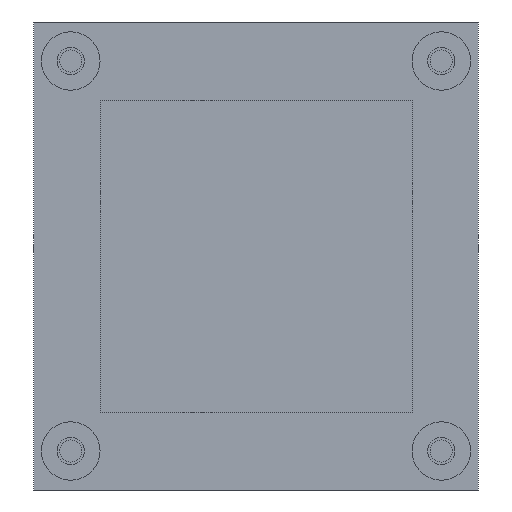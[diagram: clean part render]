
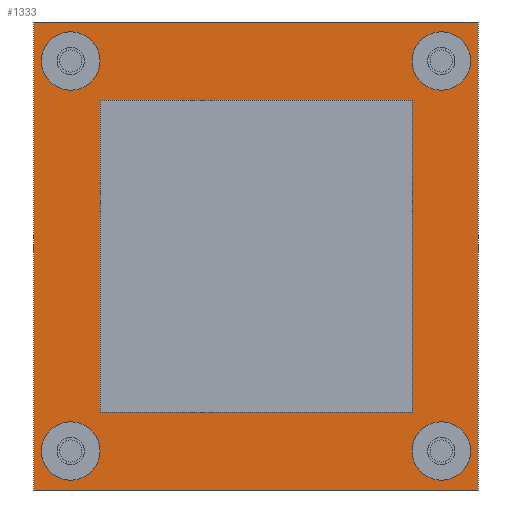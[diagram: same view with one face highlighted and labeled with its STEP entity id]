
A CAD part, front view. The second image highlights one B-rep face of the part: STEP entity #1333.
In plain terms, the highlighted planar face has unit normal (0, -1, 0).
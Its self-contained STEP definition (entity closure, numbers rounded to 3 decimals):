
#121 = ORIENTED_EDGE ( 'NONE', *, *, #13077, .F. ) ;
#644 = ORIENTED_EDGE ( 'NONE', *, *, #4678, .F. ) ;
#920 = CIRCLE ( 'NONE', #4542, 3.81 ) ;
#1273 = CARTESIAN_POINT ( 'NONE',  ( -24.13, 0., -25.4 ) ) ;
#1333 = ADVANCED_FACE ( 'NONE', ( #10533, #7147, #5256, #12633, #24418 ), #16560, .F. ) ;
#1600 = DIRECTION ( 'NONE',  ( 0., 0., -1. ) ) ;
#1673 = CARTESIAN_POINT ( 'NONE',  ( 24.13, 0., 25.4 ) ) ;
#1896 = VERTEX_POINT ( 'NONE', #9188 ) ;
#2100 = CARTESIAN_POINT ( 'NONE',  ( 24.13, 0., 29.21 ) ) ;
#2406 = CARTESIAN_POINT ( 'NONE',  ( -24.13, 0., 25.4 ) ) ;
#2497 = EDGE_LOOP ( 'NONE', ( #23664, #21226 ) ) ;
#2773 = AXIS2_PLACEMENT_3D ( 'NONE', #1273, #20481, #24479 ) ;
#2939 = CARTESIAN_POINT ( 'NONE',  ( 24.13, 0., 21.59 ) ) ;
#3017 = VERTEX_POINT ( 'NONE', #2100 ) ;
#3114 = DIRECTION ( 'NONE',  ( 0., 0., -1. ) ) ;
#3195 = CARTESIAN_POINT ( 'NONE',  ( -24.13, 0., 21.59 ) ) ;
#3993 = VERTEX_POINT ( 'NONE', #3195 ) ;
#4069 = DIRECTION ( 'NONE',  ( 0., -1., 0. ) ) ;
#4300 = ORIENTED_EDGE ( 'NONE', *, *, #13764, .F. ) ;
#4318 = EDGE_LOOP ( 'NONE', ( #121, #6880, #18310, #8313 ) ) ;
#4369 = EDGE_CURVE ( 'NONE', #7466, #18266, #16827, .T. ) ;
#4508 = CIRCLE ( 'NONE', #10911, 3.81 ) ;
#4542 = AXIS2_PLACEMENT_3D ( 'NONE', #22280, #5120, #11128 ) ;
#4600 = DIRECTION ( 'NONE',  ( 0., 0., -1. ) ) ;
#4678 = EDGE_CURVE ( 'NONE', #13398, #8537, #920, .T. ) ;
#4967 = DIRECTION ( 'NONE',  ( 0., -1., 0. ) ) ;
#5036 = ORIENTED_EDGE ( 'NONE', *, *, #7670, .F. ) ;
#5108 = CARTESIAN_POINT ( 'NONE',  ( -28.956, 0., 30.48 ) ) ;
#5120 = DIRECTION ( 'NONE',  ( 0., -1., 0. ) ) ;
#5256 = FACE_BOUND ( 'NONE', #13938, .T. ) ;
#5619 = VERTEX_POINT ( 'NONE', #15830 ) ;
#5641 = DIRECTION ( 'NONE',  ( 1., 0., 0. ) ) ;
#5903 = ORIENTED_EDGE ( 'NONE', *, *, #22840, .F. ) ;
#6749 = DIRECTION ( 'NONE',  ( 0., 0., 1. ) ) ;
#6763 = CARTESIAN_POINT ( 'NONE',  ( 24.13, 0., 25.4 ) ) ;
#6880 = ORIENTED_EDGE ( 'NONE', *, *, #17587, .F. ) ;
#7147 = FACE_BOUND ( 'NONE', #2497, .T. ) ;
#7266 = EDGE_LOOP ( 'NONE', ( #4300, #22751 ) ) ;
#7466 = VERTEX_POINT ( 'NONE', #24297 ) ;
#7670 = EDGE_CURVE ( 'NONE', #8435, #1896, #13601, .T. ) ;
#7815 = EDGE_CURVE ( 'NONE', #1896, #8435, #22026, .T. ) ;
#7953 = CIRCLE ( 'NONE', #15578, 3.81 ) ;
#8189 = CARTESIAN_POINT ( 'NONE',  ( 24.13, 0., -21.59 ) ) ;
#8313 = ORIENTED_EDGE ( 'NONE', *, *, #9192, .F. ) ;
#8435 = VERTEX_POINT ( 'NONE', #10357 ) ;
#8537 = VERTEX_POINT ( 'NONE', #8189 ) ;
#8851 = CARTESIAN_POINT ( 'NONE',  ( -28.956, 0., -30.48 ) ) ;
#9188 = CARTESIAN_POINT ( 'NONE',  ( -24.13, 0., -21.59 ) ) ;
#9192 = EDGE_CURVE ( 'NONE', #21383, #7466, #19370, .T. ) ;
#9330 = VERTEX_POINT ( 'NONE', #12322 ) ;
#9387 = CIRCLE ( 'NONE', #22605, 3.81 ) ;
#9598 = AXIS2_PLACEMENT_3D ( 'NONE', #22176, #14553, #3114 ) ;
#10152 = ORIENTED_EDGE ( 'NONE', *, *, #7815, .F. ) ;
#10357 = CARTESIAN_POINT ( 'NONE',  ( -24.13, 0., -29.21 ) ) ;
#10533 = FACE_BOUND ( 'NONE', #7266, .T. ) ;
#10815 = CIRCLE ( 'NONE', #24825, 3.81 ) ;
#10830 = DIRECTION ( 'NONE',  ( 0., 0., -1. ) ) ;
#10911 = AXIS2_PLACEMENT_3D ( 'NONE', #23414, #23158, #4600 ) ;
#10989 = EDGE_CURVE ( 'NONE', #3017, #18956, #20429, .T. ) ;
#11128 = DIRECTION ( 'NONE',  ( 0., 0., -1. ) ) ;
#11228 = CARTESIAN_POINT ( 'NONE',  ( 28.956, 0., -30.48 ) ) ;
#11269 = CARTESIAN_POINT ( 'NONE',  ( -28.956, 0., 30.48 ) ) ;
#11640 = DIRECTION ( 'NONE',  ( 0., 1., 0. ) ) ;
#12024 = AXIS2_PLACEMENT_3D ( 'NONE', #6763, #4967, #22148 ) ;
#12322 = CARTESIAN_POINT ( 'NONE',  ( -24.13, 0., 29.21 ) ) ;
#12633 = FACE_BOUND ( 'NONE', #18707, .T. ) ;
#12794 = CARTESIAN_POINT ( 'NONE',  ( 28.956, 0., -30.48 ) ) ;
#13077 = EDGE_CURVE ( 'NONE', #5619, #21383, #14503, .T. ) ;
#13111 = LINE ( 'NONE', #15279, #15138 ) ;
#13398 = VERTEX_POINT ( 'NONE', #18121 ) ;
#13486 = DIRECTION ( 'NONE',  ( 0., 0., -1. ) ) ;
#13601 = CIRCLE ( 'NONE', #2773, 3.81 ) ;
#13764 = EDGE_CURVE ( 'NONE', #3993, #9330, #4508, .T. ) ;
#13938 = EDGE_LOOP ( 'NONE', ( #5036, #10152 ) ) ;
#14503 = LINE ( 'NONE', #8851, #18525 ) ;
#14553 = DIRECTION ( 'NONE',  ( 0., -1., 0. ) ) ;
#15138 = VECTOR ( 'NONE', #23006, 1000. ) ;
#15279 = CARTESIAN_POINT ( 'NONE',  ( -28.956, 0., -30.48 ) ) ;
#15578 = AXIS2_PLACEMENT_3D ( 'NONE', #18355, #20350, #10830 ) ;
#15830 = CARTESIAN_POINT ( 'NONE',  ( -28.956, 0., -30.48 ) ) ;
#15982 = VECTOR ( 'NONE', #21501, 1000. ) ;
#16052 = EDGE_CURVE ( 'NONE', #9330, #3993, #9387, .T. ) ;
#16560 = PLANE ( 'NONE',  #21087 ) ;
#16827 = LINE ( 'NONE', #12794, #23338 ) ;
#17587 = EDGE_CURVE ( 'NONE', #18266, #5619, #13111, .T. ) ;
#17745 = DIRECTION ( 'NONE',  ( 0., -1., 0. ) ) ;
#18121 = CARTESIAN_POINT ( 'NONE',  ( 24.13, 0., -29.21 ) ) ;
#18266 = VERTEX_POINT ( 'NONE', #11228 ) ;
#18310 = ORIENTED_EDGE ( 'NONE', *, *, #4369, .F. ) ;
#18355 = CARTESIAN_POINT ( 'NONE',  ( 24.13, 0., -25.4 ) ) ;
#18525 = VECTOR ( 'NONE', #6749, 1000. ) ;
#18707 = EDGE_LOOP ( 'NONE', ( #644, #5903 ) ) ;
#18956 = VERTEX_POINT ( 'NONE', #2939 ) ;
#19370 = LINE ( 'NONE', #23110, #15982 ) ;
#19730 = DIRECTION ( 'NONE',  ( 0., 0., -1. ) ) ;
#20350 = DIRECTION ( 'NONE',  ( 0., -1., 0. ) ) ;
#20429 = CIRCLE ( 'NONE', #12024, 3.81 ) ;
#20481 = DIRECTION ( 'NONE',  ( 0., -1., 0. ) ) ;
#21087 = AXIS2_PLACEMENT_3D ( 'NONE', #11269, #11640, #5641 ) ;
#21226 = ORIENTED_EDGE ( 'NONE', *, *, #10989, .F. ) ;
#21383 = VERTEX_POINT ( 'NONE', #5108 ) ;
#21501 = DIRECTION ( 'NONE',  ( 1., 0., 0. ) ) ;
#22026 = CIRCLE ( 'NONE', #9598, 3.81 ) ;
#22148 = DIRECTION ( 'NONE',  ( 0., 0., -1. ) ) ;
#22176 = CARTESIAN_POINT ( 'NONE',  ( -24.13, 0., -25.4 ) ) ;
#22280 = CARTESIAN_POINT ( 'NONE',  ( 24.13, 0., -25.4 ) ) ;
#22605 = AXIS2_PLACEMENT_3D ( 'NONE', #2406, #17745, #19730 ) ;
#22751 = ORIENTED_EDGE ( 'NONE', *, *, #16052, .F. ) ;
#22840 = EDGE_CURVE ( 'NONE', #8537, #13398, #7953, .T. ) ;
#23006 = DIRECTION ( 'NONE',  ( -1., 0., 0. ) ) ;
#23110 = CARTESIAN_POINT ( 'NONE',  ( -28.956, 0., 30.48 ) ) ;
#23158 = DIRECTION ( 'NONE',  ( 0., -1., 0. ) ) ;
#23338 = VECTOR ( 'NONE', #1600, 1000. ) ;
#23414 = CARTESIAN_POINT ( 'NONE',  ( -24.13, 0., 25.4 ) ) ;
#23664 = ORIENTED_EDGE ( 'NONE', *, *, #24595, .F. ) ;
#24297 = CARTESIAN_POINT ( 'NONE',  ( 28.956, 0., 30.48 ) ) ;
#24418 = FACE_OUTER_BOUND ( 'NONE', #4318, .T. ) ;
#24479 = DIRECTION ( 'NONE',  ( 0., 0., -1. ) ) ;
#24595 = EDGE_CURVE ( 'NONE', #18956, #3017, #10815, .T. ) ;
#24825 = AXIS2_PLACEMENT_3D ( 'NONE', #1673, #4069, #13486 ) ;
